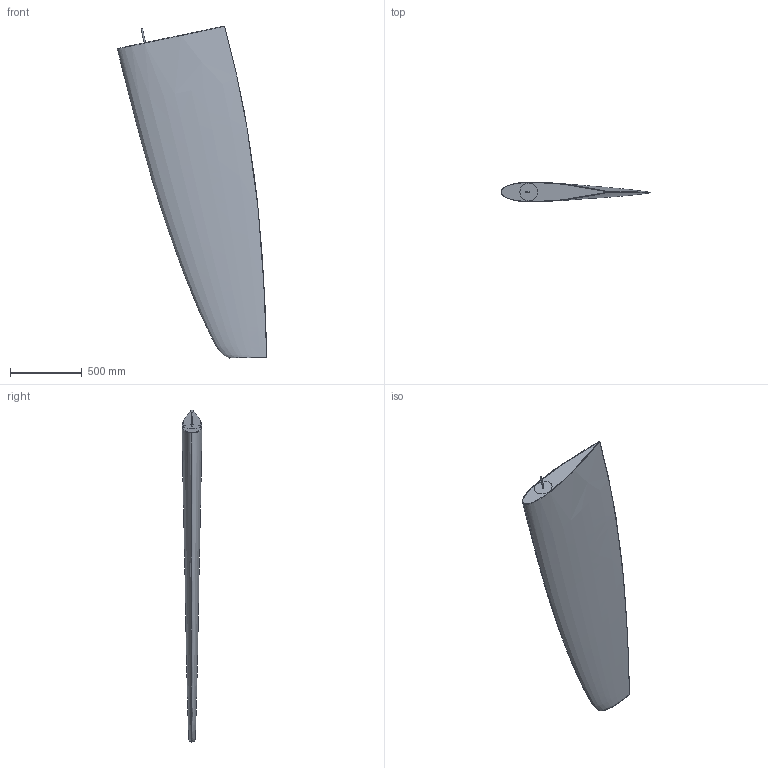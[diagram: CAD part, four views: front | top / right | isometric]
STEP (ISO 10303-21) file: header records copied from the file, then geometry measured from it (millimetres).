
FILE_DESCRIPTION (( 'STEP AP214' ), '1' );
FILE_NAME ('Rudderblade RUD55 for 50 to 60ft.STEP', '2010-09-28T09:56:04', ( 'Klaus' ), ( '' ), 'SwSTEP 2.0', 'SolidWorks 2010', '' );
FILE_SCHEMA (( 'AUTOMOTIVE_DESIGN' ));
Length unit declared in the file: millimetre
Products named in the file (1): Rudderblade RUD55 for 50 to 60ft
Bounding box: 1044.97 x 139.67 x 2320.46 mm (x, y, z)
Volume: 100930798.3 mm3; surface area: 3071323.2 mm2
Topology: 1 solids, 1 shells, 14 faces, 30 edges, 20 vertices
Faces by surface type: bspline 8, plane 4, cylinder 2
Entity records: 7158 total; most frequent: CARTESIAN_POINT 6895, ORIENTED_EDGE 60, EDGE_CURVE 30, DIRECTION 20, VERTEX_POINT 20, B_SPLINE_CURVE_WITH_KNOTS 20, EDGE_LOOP 16, FACE_OUTER_BOUND 14
